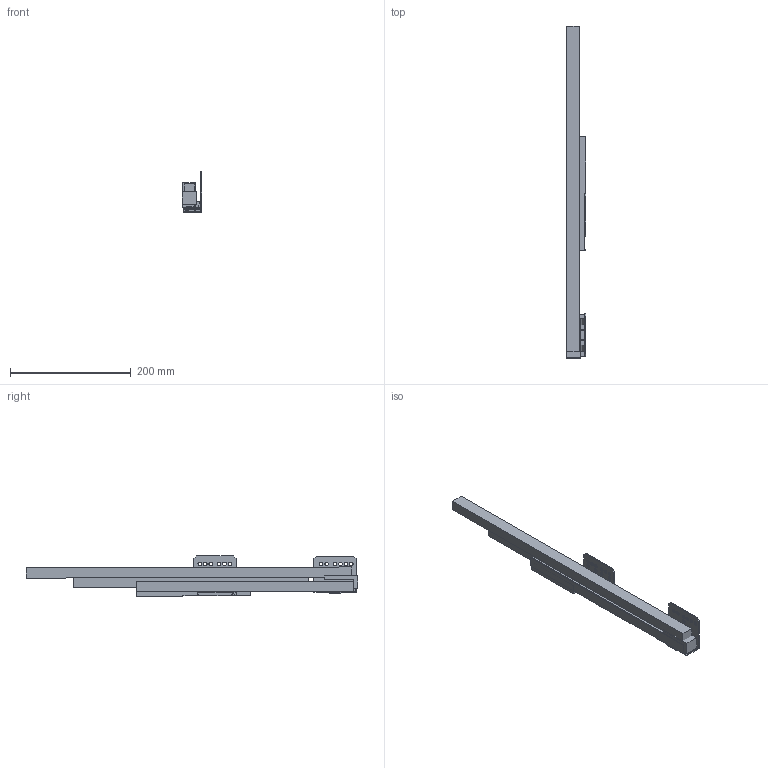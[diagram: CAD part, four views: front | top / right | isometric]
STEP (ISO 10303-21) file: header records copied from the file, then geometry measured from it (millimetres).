
FILE_DESCRIPTION (( 'STEP AP214' ), '1' );
FILE_NAME ('_IMOS Dynamic-XP VA 40kg NL550 RE.step', '2010-07-07T08:06:52', ( 'grass' ), ( '' ), 'SwSTEP 2.0', 'SolidWorks 2010', '' );
FILE_SCHEMA (( 'AUTOMOTIVE_DESIGN' ));
Length unit declared in the file: millimetre
Products named in the file (1): _IMOS Dynamic-XP VA 40kg NL550 RE
Bounding box: 32.79 x 549.89 x 66.67 mm (x, y, z)
Volume: 436425.8 mm3; surface area: 154329.3 mm2
Topology: 7 solids, 7 shells, 151 faces, 411 edges, 274 vertices
Faces by surface type: plane 111, cylinder 40
Entity records: 4913 total; most frequent: CARTESIAN_POINT 837, ORIENTED_EDGE 822, DIRECTION 795, EDGE_CURVE 411, LINE 331, VECTOR 331, VERTEX_POINT 274, AXIS2_PLACEMENT_3D 232
